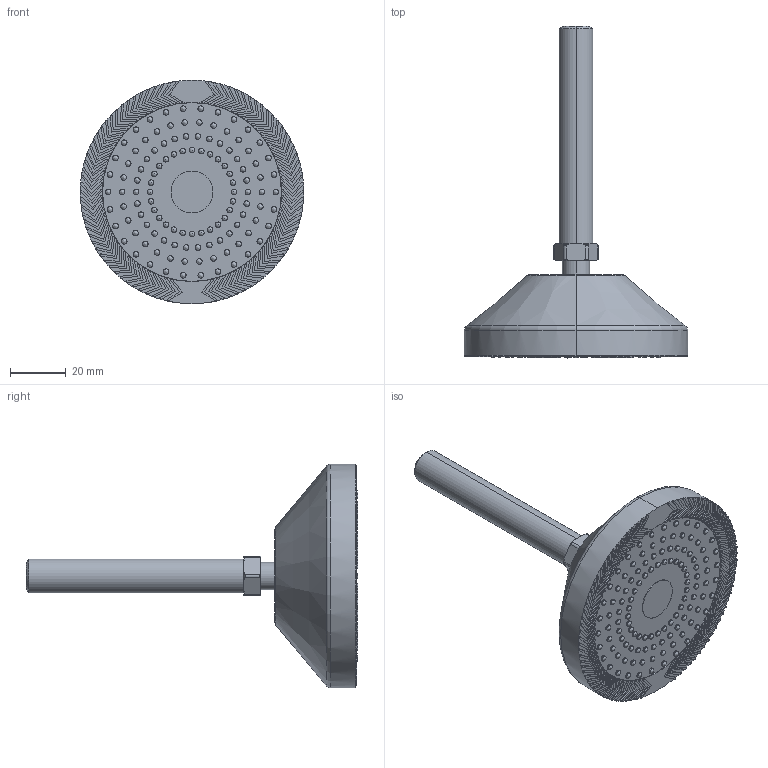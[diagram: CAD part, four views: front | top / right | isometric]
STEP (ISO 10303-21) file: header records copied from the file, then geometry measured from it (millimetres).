
FILE_DESCRIPTION (( 'STEP AP214' ), '1' );
FILE_NAME ('1.5056 S鳵t鐱alka D80 M12 C H118.STEP', '2024-05-30T05:50:50', ( '' ), ( '' ), 'SwSTEP 2.0', 'SolidWorks 2024', '' );
FILE_SCHEMA (( 'AUTOMOTIVE_DESIGN' ));
Length unit declared in the file: millimetre
Products named in the file (1): 1.5056 Säätöjalka D80 M12 C H118
Bounding box: 80 x 118.8 x 80 mm (x, y, z)
Volume: 111320.3 mm3; surface area: 18732.9 mm2
Topology: 1 solids, 1 shells, 1209 faces, 3160 edges, 2048 vertices
Faces by surface type: cylinder 554, plane 517, bspline 90, sphere 28, cone 16, torus 4
Entity records: 64934 total; most frequent: CARTESIAN_POINT 22094, DIRECTION 6376, ORIENTED_EDGE 6152, EDGE_CURVE 3076, AXIS2_PLACEMENT_3D 2396, VERTEX_POINT 1992, VECTOR 1584, LINE 1584
